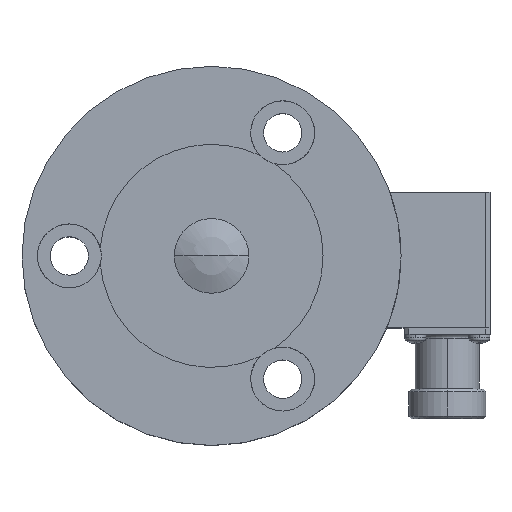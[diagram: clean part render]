
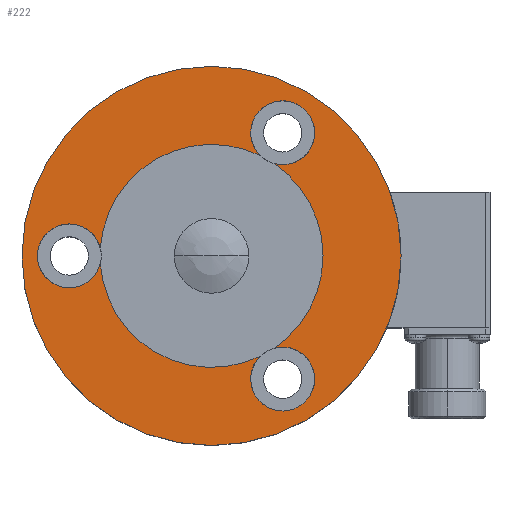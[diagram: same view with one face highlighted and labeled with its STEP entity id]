
A CAD part, top view. The second image highlights one B-rep face of the part: STEP entity #222.
In plain terms, the highlighted planar face has unit normal (0, 0, 1).
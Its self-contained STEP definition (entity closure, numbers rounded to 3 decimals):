
#222=ADVANCED_FACE('',(#543,#544),#545,.T.);
#543=FACE_OUTER_BOUND('',#886,.T.);
#544=FACE_BOUND('',#887,.T.);
#545=PLANE('',#888);
#886=EDGE_LOOP('',(#2086,#2087));
#887=EDGE_LOOP('',(#2088,#2089,#2090,#2091,#2092,#2093,#2094,#2095,#2096,#2097));
#888=AXIS2_PLACEMENT_3D('',#2098,#2099,#2100);
#2086=ORIENTED_EDGE('',*,*,#2219,.T.);
#2087=ORIENTED_EDGE('',*,*,#2595,.T.);
#2088=ORIENTED_EDGE('',*,*,#2259,.T.);
#2089=ORIENTED_EDGE('',*,*,#2588,.T.);
#2090=ORIENTED_EDGE('',*,*,#2253,.T.);
#2091=ORIENTED_EDGE('',*,*,#2594,.T.);
#2092=ORIENTED_EDGE('',*,*,#2583,.T.);
#2093=ORIENTED_EDGE('',*,*,#2229,.T.);
#2094=ORIENTED_EDGE('',*,*,#2596,.T.);
#2095=ORIENTED_EDGE('',*,*,#2584,.T.);
#2096=ORIENTED_EDGE('',*,*,#2235,.T.);
#2097=ORIENTED_EDGE('',*,*,#2597,.T.);
#2098=CARTESIAN_POINT('',(0.0,0.0,25.4));
#2099=DIRECTION('',(0.0,0.0,1.0));
#2100=DIRECTION('',(1.0,0.0,0.0));
#2219=EDGE_CURVE('',#2628,#2626,#2629,.T.);
#2229=EDGE_CURVE('',#2648,#2645,#2649,.T.);
#2235=EDGE_CURVE('',#2660,#2657,#2661,.T.);
#2253=EDGE_CURVE('',#2696,#2693,#2697,.T.);
#2259=EDGE_CURVE('',#2708,#2705,#2709,.T.);
#2583=EDGE_CURVE('',#3231,#2648,#3234,.T.);
#2584=EDGE_CURVE('',#3235,#2660,#3236,.T.);
#2588=EDGE_CURVE('',#2705,#2696,#3241,.T.);
#2594=EDGE_CURVE('',#2693,#3231,#3247,.T.);
#2595=EDGE_CURVE('',#2626,#2628,#3248,.T.);
#2596=EDGE_CURVE('',#2645,#3235,#3249,.T.);
#2597=EDGE_CURVE('',#2657,#2708,#3250,.T.);
#2626=VERTEX_POINT('',#3282);
#2628=VERTEX_POINT('',#3285);
#2629=CIRCLE('',#3286,44.45);
#2645=VERTEX_POINT('',#3306);
#2648=VERTEX_POINT('',#3310);
#2649=CIRCLE('',#3311,7.5);
#2657=VERTEX_POINT('',#3321);
#2660=VERTEX_POINT('',#3325);
#2661=CIRCLE('',#3326,7.5);
#2693=VERTEX_POINT('',#3366);
#2696=VERTEX_POINT('',#3370);
#2697=CIRCLE('',#3371,7.5);
#2705=VERTEX_POINT('',#3381);
#2708=VERTEX_POINT('',#3385);
#2709=CIRCLE('',#3386,26.15);
#3231=VERTEX_POINT('',#4568);
#3234=CIRCLE('',#4572,26.15);
#3235=VERTEX_POINT('',#4573);
#3236=CIRCLE('',#4574,26.15);
#3241=CIRCLE('',#4580,26.15);
#3247=CIRCLE('',#4586,7.5);
#3248=CIRCLE('',#4587,44.45);
#3249=CIRCLE('',#4588,7.5);
#3250=CIRCLE('',#4589,7.5);
#3282=CARTESIAN_POINT('',(-44.45,0.,25.4));
#3285=CARTESIAN_POINT('',(44.45,0.0,25.4));
#3286=AXIS2_PLACEMENT_3D('',#4621,#4622,#4623);
#3306=CARTESIAN_POINT('',(-40.85,0.,25.4));
#3310=CARTESIAN_POINT('',(-26.084,-1.858,25.4));
#3311=AXIS2_PLACEMENT_3D('',#4641,#4642,#4643);
#3321=CARTESIAN_POINT('',(20.425,35.377,25.4));
#3325=CARTESIAN_POINT('',(11.433,23.518,25.4));
#3326=AXIS2_PLACEMENT_3D('',#4653,#4654,#4655);
#3366=CARTESIAN_POINT('',(20.425,-35.377,25.4));
#3370=CARTESIAN_POINT('',(14.651,-21.66,25.4));
#3371=AXIS2_PLACEMENT_3D('',#4689,#4690,#4691);
#3381=CARTESIAN_POINT('',(26.15,0.,25.4));
#3385=CARTESIAN_POINT('',(14.651,21.66,25.4));
#3386=AXIS2_PLACEMENT_3D('',#4701,#4702,#4703);
#4568=CARTESIAN_POINT('',(11.433,-23.518,25.4));
#4572=AXIS2_PLACEMENT_3D('',#5203,#5204,#5205);
#4573=CARTESIAN_POINT('',(-26.084,1.858,25.4));
#4574=AXIS2_PLACEMENT_3D('',#5206,#5207,#5208);
#4580=AXIS2_PLACEMENT_3D('',#5216,#5217,#5218);
#4586=AXIS2_PLACEMENT_3D('',#5234,#5235,#5236);
#4587=AXIS2_PLACEMENT_3D('',#5237,#5238,#5239);
#4588=AXIS2_PLACEMENT_3D('',#5240,#5241,#5242);
#4589=AXIS2_PLACEMENT_3D('',#5243,#5244,#5245);
#4621=CARTESIAN_POINT('',(0.0,0.0,25.4));
#4622=DIRECTION('',(0.0,0.0,1.0));
#4623=DIRECTION('',(1.0,0.0,0.0));
#4641=CARTESIAN_POINT('',(-33.35,0.0,25.4));
#4642=DIRECTION('',(0.0,0.0,-1.0));
#4643=DIRECTION('',(-1.0,0.,0.0));
#4653=CARTESIAN_POINT('',(16.675,28.882,25.4));
#4654=DIRECTION('',(0.0,0.0,-1.0));
#4655=DIRECTION('',(0.5,0.866,0.0));
#4689=CARTESIAN_POINT('',(16.675,-28.882,25.4));
#4690=DIRECTION('',(0.0,0.0,-1.0));
#4691=DIRECTION('',(0.5,-0.866,0.0));
#4701=CARTESIAN_POINT('',(0.0,0.0,25.4));
#4702=DIRECTION('',(0.0,0.0,-1.0));
#4703=DIRECTION('',(1.0,0.0,0.0));
#5203=CARTESIAN_POINT('',(0.0,0.0,25.4));
#5204=DIRECTION('',(0.0,0.0,-1.0));
#5205=DIRECTION('',(1.0,0.0,0.0));
#5206=CARTESIAN_POINT('',(0.0,0.0,25.4));
#5207=DIRECTION('',(0.0,0.0,-1.0));
#5208=DIRECTION('',(1.0,0.0,0.0));
#5216=CARTESIAN_POINT('',(0.0,0.0,25.4));
#5217=DIRECTION('',(0.0,0.0,-1.0));
#5218=DIRECTION('',(1.0,0.0,0.0));
#5234=CARTESIAN_POINT('',(16.675,-28.882,25.4));
#5235=DIRECTION('',(0.0,0.0,-1.0));
#5236=DIRECTION('',(0.5,-0.866,0.0));
#5237=CARTESIAN_POINT('',(0.0,0.0,25.4));
#5238=DIRECTION('',(0.0,0.0,1.0));
#5239=DIRECTION('',(1.0,0.0,0.0));
#5240=CARTESIAN_POINT('',(-33.35,0.0,25.4));
#5241=DIRECTION('',(0.0,0.0,-1.0));
#5242=DIRECTION('',(-1.0,0.,0.0));
#5243=CARTESIAN_POINT('',(16.675,28.882,25.4));
#5244=DIRECTION('',(0.0,0.0,-1.0));
#5245=DIRECTION('',(0.5,0.866,0.0));
